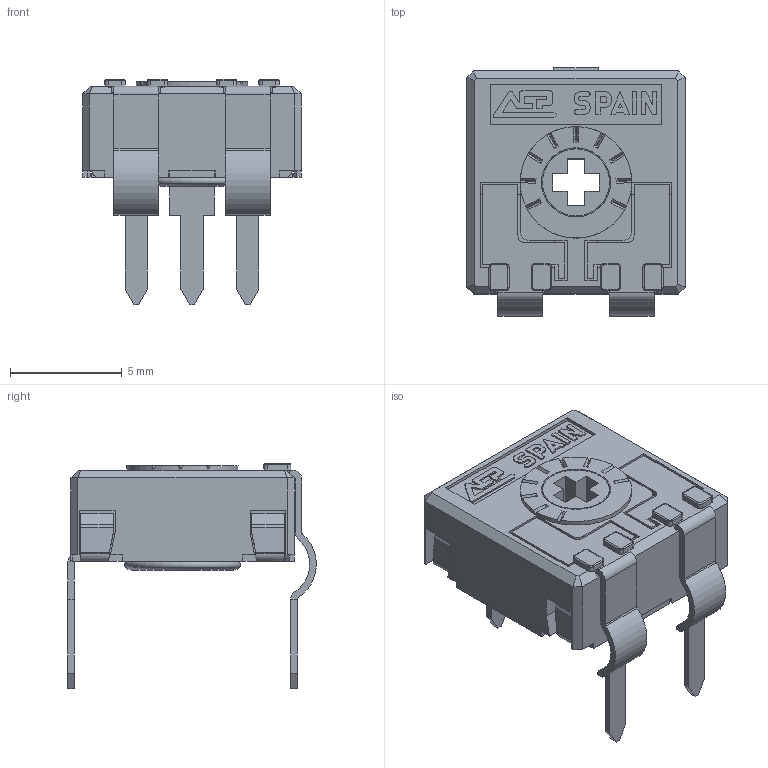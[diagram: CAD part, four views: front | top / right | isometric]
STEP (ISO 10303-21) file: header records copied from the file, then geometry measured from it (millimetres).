
FILE_DESCRIPTION(/* description */ (''),/* implementation_level */ '2;1');
FILE_NAME(/* name */ 'COMCA9RVR10.stp',/* time_stamp */ '2026-03-30T17:15:26+02:00',/* author */ ('CEM'),/* organization */ (''),/* preprocessor_version */ 'ST-DEVELOPER v20.1',/* originating_system */ 'Autodesk Inventor 2026',/* authorisation */ '');
FILE_SCHEMA (('AUTOMOTIVE_DESIGN { 1 0 10303 214 3 1 1 }'));
Length unit declared in the file: millimetre
Products named in the file (1): COMCA9RVR10
Bounding box: 9.8 x 11.15 x 10.1 mm (x, y, z)
Volume: 248.6 mm3; surface area: 875.6 mm2
Topology: 2 solids, 2 shells, 614 faces, 1739 edges, 1112 vertices
Faces by surface type: plane 482, cylinder 97, torus 19, cone 16
Full cylindrical faces by diameter (mm): 3 x1, 3.1 x1, 4 x1, 4.8 x1, 5 x1
Entity records: 19904 total; most frequent: CARTESIAN_POINT 3518, ORIENTED_EDGE 3478, DIRECTION 3246, EDGE_CURVE 1739, LINE 1410, VECTOR 1410, VERTEX_POINT 1112, AXIS2_PLACEMENT_3D 918
